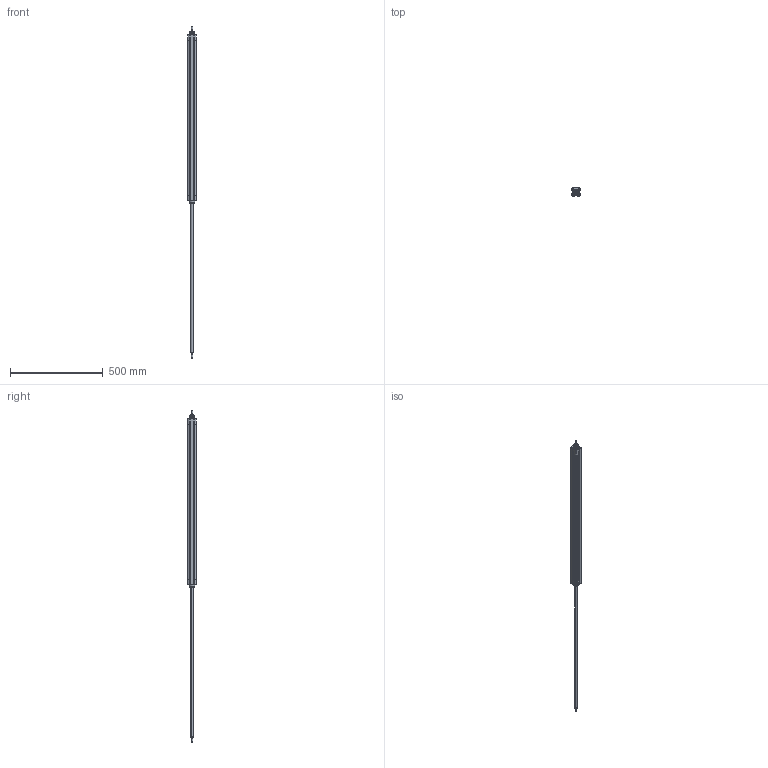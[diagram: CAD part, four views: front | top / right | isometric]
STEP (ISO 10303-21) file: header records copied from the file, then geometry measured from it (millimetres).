
FILE_DESCRIPTION((''),'2;1');
FILE_NAME('F:\Lib-3d\1380\CIL\1380_32_0800_02.stp','2004-01-07T16:02:09',('maffial1'),(''),'Autodesk Inventor 8','Autodesk Inventor 8','');
FILE_SCHEMA(('AUTOMOTIVE_DESIGN { 1 0 10303 214 1 1 1 1 }'));
Length unit declared in the file: millimetre
Products named in the file (3): 1380_32_0800_02; CPP04_32_800; CPP03_32_800
Assembly tree (2 placements, depth 2):
  1380_32_0800_02
    CPP04_32_800
    CPP03_32_800
Bounding box: 46 x 46 x 1790 mm (x, y, z)
Volume: 1775836.8 mm3; surface area: 312693.7 mm2
Topology: 2 solids, 2 shells, 236 faces, 564 edges, 356 vertices
Faces by surface type: plane 80, cylinder 66, bspline 62, cone 24, torus 4
Entity records: 7513 total; most frequent: CARTESIAN_POINT 2031, DIRECTION 1154, ORIENTED_EDGE 1096, EDGE_CURVE 548, AXIS2_PLACEMENT_3D 427, VERTEX_POINT 356, VECTOR 300, LINE 300
